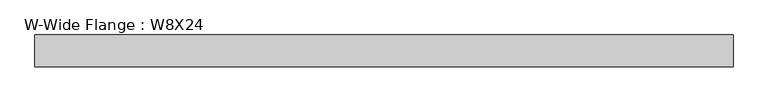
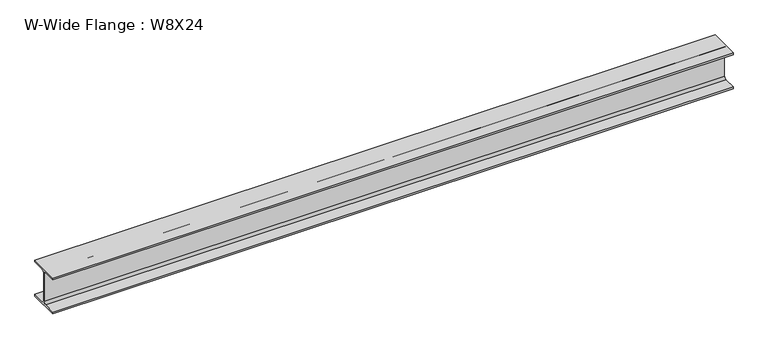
"""IFC4 building model written with IfcOpenShell, lengths in millimetres: beam geometry, W-Wide Flange : W8X24."""

import ifcopenshell
import ifcopenshell.guid

model = None  # the IFC model being written
_history = None  # IfcOwnerHistory: only IFC2X3 demands one
_inside = {}  # id of a spatial element -> (the spatial element, [elements in it])
_under = {}  # id of a project, library or spatial element -> (it, [spatial elements below it])
_declared = {}  # id of a project -> (the project, [libraries it declares])
_typed = {}  # id of a type object -> (the type object, [elements of that type])
_made_of = {}  # id of a material, layer set ... -> (it, [elements and type objects made of it])


def new_model(schema):
    """Start an empty IFC model of exactly this schema.

    Asked for "IFC4X3", IfcOpenShell would pick the latest addendum, in which some entities
    have other attributes; the version numbers below select the first issue.
    IFC2X3 requires an IfcOwnerHistory on every rooted entity: one is made here for all.
    """
    global model, _history
    if schema == "IFC4X3":
        model = ifcopenshell.file(schema_version=(4, 3, 0, 0))
    else:
        model = ifcopenshell.file(schema=schema)
    _inside.clear()
    _under.clear()
    _declared.clear()
    _typed.clear()
    _made_of.clear()
    _history = None
    if model.schema == "IFC2X3":
        org = make("IfcOrganization", Name="unknown")
        user = make(
            "IfcPersonAndOrganization",
            ThePerson=make("IfcPerson", FamilyName="unknown"),
            TheOrganization=org,
        )
        app = make(
            "IfcApplication",
            ApplicationDeveloper=org,
            Version="unknown",
            ApplicationFullName="unknown",
            ApplicationIdentifier="unknown",
        )
        _history = make(
            "IfcOwnerHistory",
            OwningUser=user,
            OwningApplication=app,
            ChangeAction="ADDED",
            CreationDate=0,
        )
    return model


def make(cls, **values):
    """One entity of the class cls with the attributes given. An attribute that is None is left unset."""
    return model.create_entity(
        cls, **{name: value for name, value in values.items() if value is not None}
    )


def rooted(cls, **values):
    """An entity with a GlobalId (a new one), such as an element, a storey or a relation."""
    return make(cls, GlobalId=ifcopenshell.guid.new(), OwnerHistory=_history, **values)


def si_unit(unit_type, name, prefix=None):
    """IfcSIUnit, for example si_unit("LENGTHUNIT", "METRE", prefix="MILLI")."""
    return make("IfcSIUnit", UnitType=unit_type, Prefix=prefix, Name=name)


def assignment(units):
    """IfcUnitAssignment: the units of a project."""
    return None if units is None else make("IfcUnitAssignment", Units=units)


def point(xyz):
    """IfcCartesianPoint."""
    return None if xyz is None else make("IfcCartesianPoint", Coordinates=xyz)


def direction(xyz):
    """IfcDirection."""
    return None if xyz is None else make("IfcDirection", DirectionRatios=xyz)


def frame(location, z_axis=None, x_axis=None):
    """IfcAxis2Placement3D, a coordinate frame: its origin and axes. An axis left out is left unset."""
    return make(
        "IfcAxis2Placement3D",
        Location=point(location),
        Axis=direction(z_axis),
        RefDirection=direction(x_axis),
    )


def frame_2d(location, x_axis=None):
    """IfcAxis2Placement2D, a coordinate frame in the plane: its origin and x axis."""
    return make(
        "IfcAxis2Placement2D", Location=point(location), RefDirection=direction(x_axis)
    )


def origin():
    """The frame at (0, 0, 0) with its axes left unset."""
    return frame((0.0, 0.0, 0.0))


def place(relative_to, where):
    """IfcLocalPlacement: puts the frame where relative to a parent placement (None: the world)."""
    return make(
        "IfcLocalPlacement", PlacementRelTo=relative_to, RelativePlacement=where
    )


def context(
    kind, dimensions, precision=None, world=None, true_north=None, identifier=None
):
    """IfcGeometricRepresentationContext, for example the 3D "Model" context."""
    return make(
        "IfcGeometricRepresentationContext",
        ContextIdentifier=identifier,
        ContextType=kind,
        CoordinateSpaceDimension=dimensions,
        Precision=precision,
        WorldCoordinateSystem=world,
        TrueNorth=true_north,
    )


def project(units=None, contexts=None):
    """IfcProject with its units and contexts."""
    return rooted(
        "IfcProject",
        Name="project",
        RepresentationContexts=contexts,
        UnitsInContext=assignment(units),
    )


def spatial(cls, under=None, at=None, **own):
    """A site, building, storey or space (cls), placed at a placement, below another one or the project."""
    s = rooted(cls, ObjectPlacement=at, **own)
    if under is not None:
        _under.setdefault(under.id(), (under, []))[1].append(s)
    return s


def polyline(points):
    """IfcPolyline through the points."""
    return make("IfcPolyline", Points=[point(p) for p in points])


def circle_curve(where, radius):
    """IfcCircle in the frame where."""
    return make("IfcCircle", Position=where, Radius=radius)


def trimmed(basis, trim1, trim2, sense, master):
    """IfcTrimmedCurve: the piece of a basis curve between two trims."""
    return make(
        "IfcTrimmedCurve",
        BasisCurve=basis,
        Trim1=trim1,
        Trim2=trim2,
        SenseAgreement=sense,
        MasterRepresentation=master,
    )


def segment(curve, same_sense, transition):
    """IfcCompositeCurveSegment."""
    return make(
        "IfcCompositeCurveSegment",
        Transition=transition,
        SameSense=same_sense,
        ParentCurve=curve,
    )


def composite_curve(segments, self_intersect=None):
    """IfcCompositeCurve: segments joined end to end."""
    return make("IfcCompositeCurve", Segments=segments, SelfIntersect=self_intersect)


def outline(outer, holes=None, kind="AREA"):
    """IfcArbitraryClosedProfileDef: a profile drawn as a closed curve; with holes, ...WithVoids."""
    if holes is None:
        return make("IfcArbitraryClosedProfileDef", ProfileType=kind, OuterCurve=outer)
    return make(
        "IfcArbitraryProfileDefWithVoids",
        ProfileType=kind,
        OuterCurve=outer,
        InnerCurves=holes,
    )


def extrude(swept, where, along, depth):
    """IfcExtrudedAreaSolid: the profile swept, set in the frame where, extruded along a direction by depth."""
    return make(
        "IfcExtrudedAreaSolid",
        SweptArea=swept,
        Position=where,
        ExtrudedDirection=direction(along),
        Depth=depth,
    )


def shape(context_of_items, identifier, shape_type, items):
    """IfcShapeRepresentation: the items that make up one representation, for example the "Body"."""
    return make(
        "IfcShapeRepresentation",
        ContextOfItems=context_of_items,
        RepresentationIdentifier=identifier,
        RepresentationType=shape_type,
        Items=items,
    )


def source(mapping_origin, context_of_items, identifier, shape_type, items):
    """IfcRepresentationMap: a shape defined once, which mapped items show again and again."""
    return make(
        "IfcRepresentationMap",
        MappingOrigin=mapping_origin,
        MappedRepresentation=shape(context_of_items, identifier, shape_type, items),
    )


def transform(
    local_origin,
    x_axis=None,
    y_axis=None,
    z_axis=None,
    scale=None,
    scale2=None,
    scale3=None,
    uniform=True,
):
    """IfcCartesianTransformationOperator3D, or its non-uniform kind. x_axis, y_axis, z_axis: its Axis1, 2, 3."""
    if uniform:
        return make(
            "IfcCartesianTransformationOperator3D",
            Axis1=direction(x_axis),
            Axis2=direction(y_axis),
            LocalOrigin=point(local_origin),
            Scale=scale,
            Axis3=direction(z_axis),
        )
    return make(
        "IfcCartesianTransformationOperator3DnonUniform",
        Axis1=direction(x_axis),
        Axis2=direction(y_axis),
        LocalOrigin=point(local_origin),
        Scale=scale,
        Axis3=direction(z_axis),
        Scale2=scale2,
        Scale3=scale3,
    )


def mapped(mapping_source, mapping_target):
    """IfcMappedItem: shows the shape of a source again, moved by a transform."""
    return make(
        "IfcMappedItem", MappingSource=mapping_source, MappingTarget=mapping_target
    )


def made_of(thing, what):
    """Note that an element or type object is made of a material, layer set ...; save() writes the relation."""
    if what is not None:
        _made_of.setdefault(what.id(), (what, []))[1].append(thing)
    return thing


def element(
    cls,
    number,
    at=None,
    inside=None,
    cuts=None,
    type_object=None,
    material=None,
    context=None,
    identifier="Body",
    shape_type=None,
    held_by="IfcProductDefinitionShape",
    body=None,
    shapes=None,
    **own,
):
    """One element of the class cls, such as IfcWall. Its Tag is "e" and its number.

    at: its placement. inside: the storey or other place that contains it. cuts: it is an
    opening in that element (IfcRelVoidsElement). A single representation is given by context,
    identifier, shape_type and body (its items); several are given by shapes. held_by: the class
    of the entity that holds the representations. save() writes the other relations.
    """
    e = rooted(cls, Tag="e%d" % number, ObjectPlacement=at, **own)
    if body is not None:
        shapes = [shape(context, identifier, shape_type, body)]
    if shapes is not None:
        e.Representation = make(held_by, Representations=shapes)
    if inside is not None:
        _inside.setdefault(inside.id(), (inside, []))[1].append(e)
    if cuts is not None:
        rooted(
            "IfcRelVoidsElement", RelatingBuildingElement=cuts, RelatedOpeningElement=e
        )
    if type_object is not None:
        _typed.setdefault(type_object.id(), (type_object, []))[1].append(e)
    return made_of(e, material)


def aggregate(whole, parts):
    """IfcRelAggregates: a whole, such as a stair, and the parts it consists of."""
    return rooted("IfcRelAggregates", RelatingObject=whole, RelatedObjects=parts)


def save(model, path):
    """Write the relations noted so far, then the file.

    IfcRelAggregates (storeys below a building ...), IfcRelContainedInSpatialStructure (elements
    in a storey), IfcRelDefinesByType, IfcRelAssociatesMaterial and IfcRelDeclares: one each for
    every whole, place, type object, material and project.
    """
    for whole, parts in _under.values():
        aggregate(whole, parts)
    for where, things in _inside.values():
        rooted(
            "IfcRelContainedInSpatialStructure",
            RelatedElements=things,
            RelatingStructure=where,
        )
    for kind, things in _typed.values():
        rooted("IfcRelDefinesByType", RelatedObjects=things, RelatingType=kind)
    for what, things in _made_of.values():
        rooted("IfcRelAssociatesMaterial", RelatedObjects=things, RelatingMaterial=what)
    for by, libraries in _declared.values():
        rooted("IfcRelDeclares", RelatingContext=by, RelatedDefinitions=libraries)
    model.write(path)


def w_wide_flange_w8x24_5daaecee(model_context):
    return source(origin(), model_context, "Body", "SweptSolid", [
        extrude(outline(composite_curve([segment(polyline([(82.55, -90.551), (82.55, -100.711), (-82.55, -100.711), (-82.55, -90.551), (-15.1765, -90.551)]), True, "CONTINUOUS"), segment(trimmed(circle_curve(frame_2d((-15.1765, -78.486)), 12.065), [point((-15.1765, -90.551))], [point((-3.1115, -78.486))], True, "CARTESIAN"), True, "CONTINUOUS"), segment(polyline([(-3.1115, -78.486), (-3.1115, 78.486)]), True, "CONTINUOUS"), segment(trimmed(circle_curve(frame_2d((-15.1765, 78.486)), 12.065), [point((-3.1115, 78.486))], [point((-15.1765, 90.551))], True, "CARTESIAN"), True, "CONTINUOUS"), segment(polyline([(-15.1765, 90.551), (-82.55, 90.551), (-82.55, 100.711), (82.55, 100.711), (82.55, 90.551), (15.1765, 90.551)]), True, "CONTINUOUS"), segment(trimmed(circle_curve(frame_2d((15.1765, 78.486)), 12.065), [point((15.1765, 90.551))], [point((3.1115, 78.486))], True, "CARTESIAN"), True, "CONTINUOUS"), segment(polyline([(3.1115, 78.486), (3.1115, -78.486)]), True, "CONTINUOUS"), segment(trimmed(circle_curve(frame_2d((15.1765, -78.486)), 12.065), [point((3.1115, -78.486))], [point((15.1765, -90.551))], True, "CARTESIAN"), True, "CONTINUOUS"), segment(polyline([(15.1765, -90.551), (82.55, -90.551)]), True, "CONTINUOUS")], self_intersect=False)), frame((-1800.2249994, 0.0, 0.0), z_axis=(1.0, 0.0, 0.0), x_axis=(0.0, 1.0, 0.0)), (0.0, 0.0, 1.0), 3613.1499994),
    ])


if __name__ == "__main__":
    model = new_model("IFC4")
    model_context = context("Model", 3, world=origin())
    ifc_project = project(units=[si_unit("LENGTHUNIT", "METRE", prefix="MILLI")], contexts=[model_context])
    site = spatial("IfcSite", under=ifc_project)
    building = spatial("IfcBuilding", under=site)
    placement = place(None, origin())
    w_wide_flange_w8x24_shape = w_wide_flange_w8x24_5daaecee(model_context)
    element("IfcBeam", 1, ObjectType="W-Wide Flange : W8X24", at=placement, inside=building, context=model_context, shape_type="MappedRepresentation", body=[
        mapped(w_wide_flange_w8x24_shape, transform((0.0, 0.0, 0.0), x_axis=(1.0, 0.0, 0.0), y_axis=(0.0, 1.0, 0.0), z_axis=(0.0, 0.0, 1.0))),
    ])
    save(model, "model.ifc")
